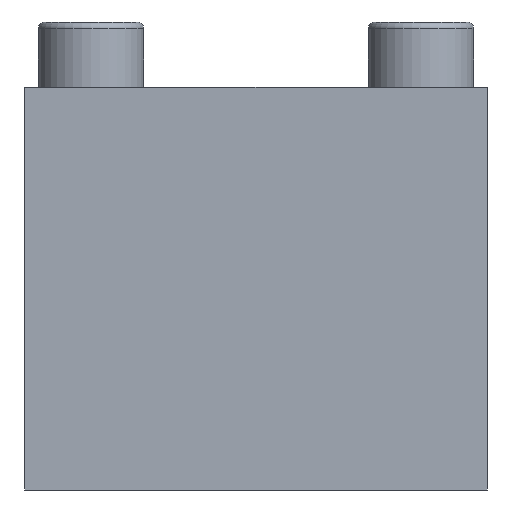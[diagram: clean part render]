
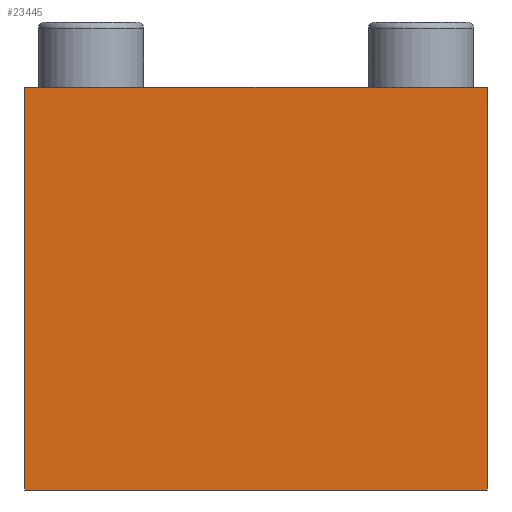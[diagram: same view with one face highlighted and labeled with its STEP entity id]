
A CAD part, front view. The second image highlights one B-rep face of the part: STEP entity #23445.
In plain terms, the highlighted planar face has unit normal (0, -1, 0).
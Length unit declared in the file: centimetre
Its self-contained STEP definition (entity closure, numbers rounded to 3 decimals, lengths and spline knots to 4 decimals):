
#2469=FACE_OUTER_BOUND('',#3725,.T.);
#3725=EDGE_LOOP('',(#15905,#15906,#15907,#15908));
#5141=LINE('',#30314,#7721);
#5145=LINE('',#30323,#7725);
#5146=LINE('',#30324,#7726);
#5147=LINE('',#30325,#7727);
#7721=VECTOR('',#25719,6.1);
#7725=VECTOR('',#25725,6.1);
#7726=VECTOR('',#25726,7.);
#7727=VECTOR('',#25727,7.);
#10355=VERTEX_POINT('',#30312);
#10356=VERTEX_POINT('',#30313);
#10359=VERTEX_POINT('',#30321);
#10360=VERTEX_POINT('',#30322);
#12581=EDGE_CURVE('',#10355,#10356,#5141,.T.);
#12585=EDGE_CURVE('',#10359,#10360,#5145,.T.);
#12586=EDGE_CURVE('',#10355,#10359,#5146,.T.);
#12587=EDGE_CURVE('',#10360,#10356,#5147,.T.);
#15905=ORIENTED_EDGE('',*,*,#12585,.F.);
#15906=ORIENTED_EDGE('',*,*,#12586,.F.);
#15907=ORIENTED_EDGE('',*,*,#12581,.T.);
#15908=ORIENTED_EDGE('',*,*,#12587,.F.);
#22539=PLANE('',#24705);
#23445=ADVANCED_FACE('',(#2469),#22539,.T.);
#24705=AXIS2_PLACEMENT_3D('',#30320,#25723,#25724);
#25719=DIRECTION('',(0.,0.,-1.));
#25723=DIRECTION('center_axis',(0.,-1.,0.));
#25724=DIRECTION('ref_axis',(-1.,0.,0.));
#25725=DIRECTION('',(0.,0.,-1.));
#25726=DIRECTION('',(1.,0.,0.));
#25727=DIRECTION('',(-1.,0.,0.));
#30312=CARTESIAN_POINT('',(-3.5,-15.5,4.85));
#30313=CARTESIAN_POINT('',(-3.5,-15.5,-1.25));
#30314=CARTESIAN_POINT('',(-3.5,-15.5,0.));
#30320=CARTESIAN_POINT('Origin',(3.5,-15.5,3.6));
#30321=CARTESIAN_POINT('',(3.5,-15.5,4.85));
#30322=CARTESIAN_POINT('',(3.5,-15.5,-1.25));
#30323=CARTESIAN_POINT('',(3.5,-15.5,0.));
#30324=CARTESIAN_POINT('',(3.5,-15.5,4.85));
#30325=CARTESIAN_POINT('',(3.5,-15.5,-1.25));
